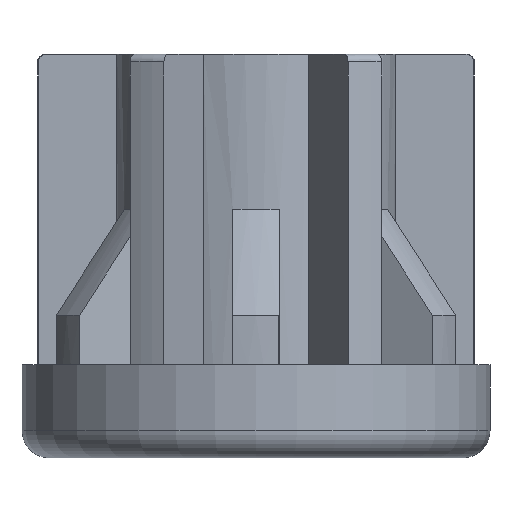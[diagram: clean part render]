
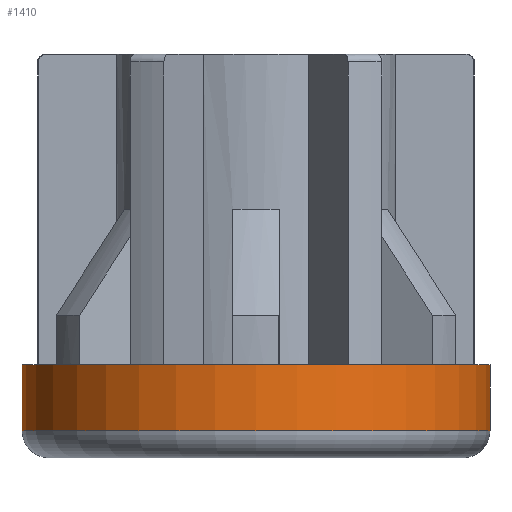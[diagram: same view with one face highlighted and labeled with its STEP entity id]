
A CAD part, front view. The second image highlights one B-rep face of the part: STEP entity #1410.
In plain terms, the highlighted cylindrical face has radius 30.15 mm (diameter 60.3 mm), a partial arc.
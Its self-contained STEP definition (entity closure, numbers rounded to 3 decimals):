
#121 = CARTESIAN_POINT ( 'NONE',  ( 0., 0., 11.25 ) ) ;
#457 = DIRECTION ( 'NONE',  ( 0., 0., 1. ) ) ;
#533 = CIRCLE ( 'NONE', #3763, 30.15 ) ;
#715 = EDGE_LOOP ( 'NONE', ( #4150, #2978, #1109, #3676 ) ) ;
#1053 = VERTEX_POINT ( 'NONE', #3082 ) ;
#1109 = ORIENTED_EDGE ( 'NONE', *, *, #1423, .F. ) ;
#1341 = EDGE_CURVE ( 'NONE', #1053, #3728, #4232, .T. ) ;
#1348 = CARTESIAN_POINT ( 'NONE',  ( 30.15, 0., 2.75 ) ) ;
#1389 = DIRECTION ( 'NONE',  ( -1., 0., 0. ) ) ;
#1410 = ADVANCED_FACE ( 'NONE', ( #3158 ), #2152, .T. ) ;
#1415 = AXIS2_PLACEMENT_3D ( 'NONE', #4269, #2915, #3231 ) ;
#1423 = EDGE_CURVE ( 'NONE', #2988, #1869, #3329, .T. ) ;
#1442 = CARTESIAN_POINT ( 'NONE',  ( -30.15, 0., 11.25 ) ) ;
#1444 = CARTESIAN_POINT ( 'NONE',  ( 30.15, 0., 11.25 ) ) ;
#1467 = DIRECTION ( 'NONE',  ( 0., 0., -1. ) ) ;
#1470 = VECTOR ( 'NONE', #1467, 1000. ) ;
#1637 = VECTOR ( 'NONE', #457, 1000. ) ;
#1869 = VERTEX_POINT ( 'NONE', #1348 ) ;
#2152 = CYLINDRICAL_SURFACE ( 'NONE', #2249, 30.15 ) ;
#2249 = AXIS2_PLACEMENT_3D ( 'NONE', #121, #3122, #2784 ) ;
#2784 = DIRECTION ( 'NONE',  ( -1., 0., 0. ) ) ;
#2915 = DIRECTION ( 'NONE',  ( 0., 0., -1. ) ) ;
#2978 = ORIENTED_EDGE ( 'NONE', *, *, #3484, .F. ) ;
#2988 = VERTEX_POINT ( 'NONE', #1444 ) ;
#3073 = EDGE_CURVE ( 'NONE', #2988, #3728, #533, .T. ) ;
#3082 = CARTESIAN_POINT ( 'NONE',  ( -30.15, 0., 2.75 ) ) ;
#3122 = DIRECTION ( 'NONE',  ( 0., 0., -1. ) ) ;
#3150 = CARTESIAN_POINT ( 'NONE',  ( 30.15, 0., 11.25 ) ) ;
#3158 = FACE_OUTER_BOUND ( 'NONE', #715, .T. ) ;
#3181 = CARTESIAN_POINT ( 'NONE',  ( -30.15, 0., 11.25 ) ) ;
#3231 = DIRECTION ( 'NONE',  ( -1., 0., 0. ) ) ;
#3329 = LINE ( 'NONE', #3150, #1470 ) ;
#3484 = EDGE_CURVE ( 'NONE', #1869, #1053, #3639, .T. ) ;
#3639 = CIRCLE ( 'NONE', #1415, 30.15 ) ;
#3676 = ORIENTED_EDGE ( 'NONE', *, *, #3073, .T. ) ;
#3728 = VERTEX_POINT ( 'NONE', #3181 ) ;
#3763 = AXIS2_PLACEMENT_3D ( 'NONE', #4110, #4138, #1389 ) ;
#4110 = CARTESIAN_POINT ( 'NONE',  ( 0., 0., 11.25 ) ) ;
#4138 = DIRECTION ( 'NONE',  ( 0., 0., -1. ) ) ;
#4150 = ORIENTED_EDGE ( 'NONE', *, *, #1341, .F. ) ;
#4232 = LINE ( 'NONE', #1442, #1637 ) ;
#4269 = CARTESIAN_POINT ( 'NONE',  ( 0., 0., 2.75 ) ) ;
